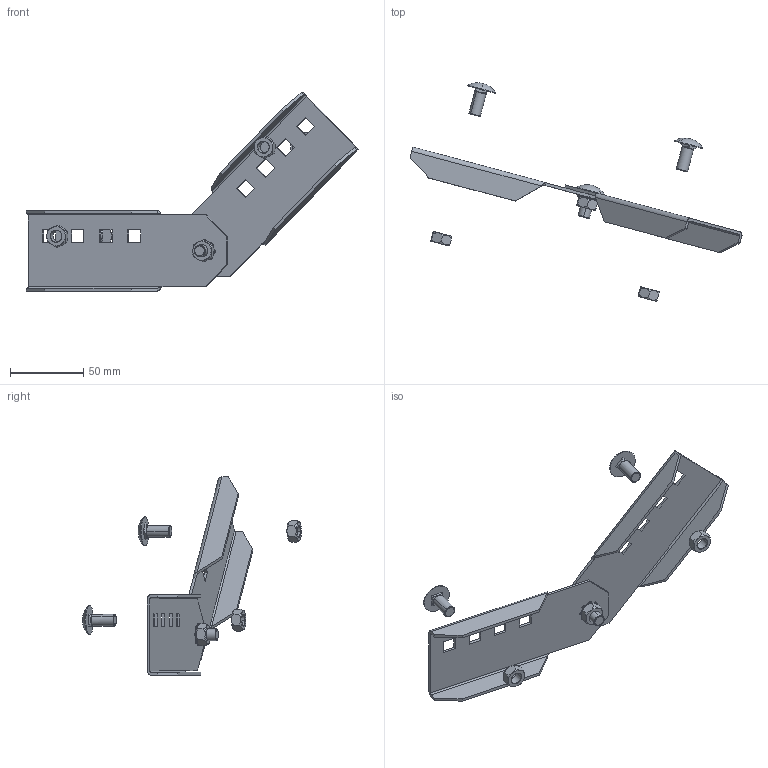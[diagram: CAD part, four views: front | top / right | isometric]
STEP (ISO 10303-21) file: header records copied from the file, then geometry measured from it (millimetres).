
FILE_DESCRIPTION(('Creo Elements/Direct Modeling STEP Export'),'2;1');
FILE_NAME('//pserver/office/EK/ME10-3D/3D-output/WPCV06-HDG KAT.stp','2019-08-14T 9:34:52',(''),(''),'PTC Creo Elements/Direct Modeling STEP processor for AP214 (Solid Model)','PTC Creo Elements/Direct Modeling 19.0C 15-Aug-2015 (C) Parametric Technology GmbH','');
FILE_SCHEMA(('AUTOMOTIVE_DESIGN { 1 0 10303 214 1 1 1 1 }'));
Length unit declared in the file: millimetre
Products named in the file (6): WPVV-L_R_60; WPVV-L_L_60; SEM_8E.1.1; FS_8; FRSV_8x16E; WPCV06-HDG_KAT
Assembly tree (9 placements, depth 2):
  WPCV06-HDG_KAT
    SEM_8E.1.1  x3
    FRSV_8x16E  x3
    FS_8
    WPVV-L_L_60
    WPVV-L_R_60
Bounding box: 226.72 x 149.51 x 135.33 mm (x, y, z)
Volume: 43685.9 mm3; surface area: 44407.6 mm2
Topology: 9 solids, 9 shells, 702 faces, 1936 edges, 1255 vertices
Faces by surface type: cylinder 458, plane 168, cone 66, sphere 6, bspline 4
Entity records: 33734 total; most frequent: CARTESIAN_POINT 18805, ORIENTED_EDGE 3444, DIRECTION 2430, EDGE_CURVE 1722, VERTEX_POINT 1133, AXIS2_PLACEMENT_3D 1044, B_SPLINE_CURVE_WITH_KNOTS 904, EDGE_LOOP 637
